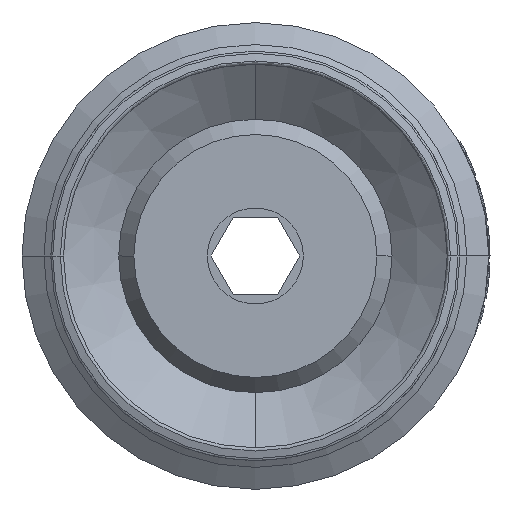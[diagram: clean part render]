
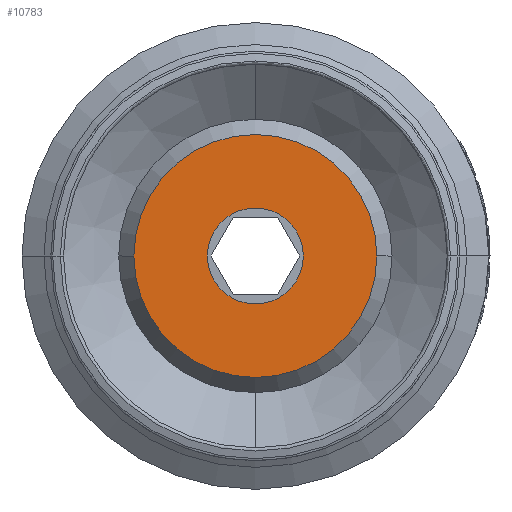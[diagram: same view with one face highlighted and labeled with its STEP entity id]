
A CAD part, front view. The second image highlights one B-rep face of the part: STEP entity #10783.
In plain terms, the highlighted planar face has unit normal (0, -1, 0).
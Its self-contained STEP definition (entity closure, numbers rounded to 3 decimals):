
#1263 = EDGE_LOOP ( 'NONE', ( #10392, #11448 ) ) ;
#1641 = EDGE_CURVE ( 'NONE', #10900, #10714, #3721, .T. ) ;
#1756 = CIRCLE ( 'NONE', #8604, 9.5 ) ;
#1795 = AXIS2_PLACEMENT_3D ( 'NONE', #10257, #3513, #11358 ) ;
#2706 = EDGE_CURVE ( 'NONE', #8658, #9802, #1756, .T. ) ;
#3513 = DIRECTION ( 'NONE',  ( 0., -1., 0. ) ) ;
#3611 = CARTESIAN_POINT ( 'NONE',  ( 0., -13., 0. ) ) ;
#3721 = CIRCLE ( 'NONE', #11322, 3.75 ) ;
#3845 = FACE_OUTER_BOUND ( 'NONE', #5140, .T. ) ;
#4723 = DIRECTION ( 'NONE',  ( -1., 0., 0. ) ) ;
#5140 = EDGE_LOOP ( 'NONE', ( #6207, #6282 ) ) ;
#5159 = CIRCLE ( 'NONE', #5390, 9.5 ) ;
#5166 = CARTESIAN_POINT ( 'NONE',  ( 0., -13., 0. ) ) ;
#5314 = EDGE_CURVE ( 'NONE', #9802, #8658, #5159, .T. ) ;
#5390 = AXIS2_PLACEMENT_3D ( 'NONE', #5166, #13048, #6313 ) ;
#5528 = CARTESIAN_POINT ( 'NONE',  ( 0., -13., 0. ) ) ;
#5672 = EDGE_CURVE ( 'NONE', #10714, #10900, #11663, .T. ) ;
#6207 = ORIENTED_EDGE ( 'NONE', *, *, #2706, .T. ) ;
#6282 = ORIENTED_EDGE ( 'NONE', *, *, #5314, .T. ) ;
#6313 = DIRECTION ( 'NONE',  ( -1., 0., 0. ) ) ;
#6461 = DIRECTION ( 'NONE',  ( 0., 1., 0. ) ) ;
#6656 = DIRECTION ( 'NONE',  ( -1., 0., 0. ) ) ;
#7819 = CARTESIAN_POINT ( 'NONE',  ( -3.75, -13., 0. ) ) ;
#7820 = CARTESIAN_POINT ( 'NONE',  ( -9.5, -13., 0. ) ) ;
#8604 = AXIS2_PLACEMENT_3D ( 'NONE', #3611, #11461, #4723 ) ;
#8658 = VERTEX_POINT ( 'NONE', #7820 ) ;
#9277 = CARTESIAN_POINT ( 'NONE',  ( 9.5, -13., 0. ) ) ;
#9802 = VERTEX_POINT ( 'NONE', #9277 ) ;
#10209 = PLANE ( 'NONE',  #1795 ) ;
#10257 = CARTESIAN_POINT ( 'NONE',  ( -3.75, -13., 0. ) ) ;
#10392 = ORIENTED_EDGE ( 'NONE', *, *, #5672, .T. ) ;
#10714 = VERTEX_POINT ( 'NONE', #7819 ) ;
#10783 = ADVANCED_FACE ( 'NONE', ( #3845, #12449 ), #10209, .T. ) ;
#10900 = VERTEX_POINT ( 'NONE', #13667 ) ;
#11322 = AXIS2_PLACEMENT_3D ( 'NONE', #13195, #6461, #14323 ) ;
#11358 = DIRECTION ( 'NONE',  ( 1., 0., 0. ) ) ;
#11448 = ORIENTED_EDGE ( 'NONE', *, *, #1641, .T. ) ;
#11461 = DIRECTION ( 'NONE',  ( 0., -1., 0. ) ) ;
#11663 = CIRCLE ( 'NONE', #14437, 3.75 ) ;
#12449 = FACE_BOUND ( 'NONE', #1263, .T. ) ;
#13048 = DIRECTION ( 'NONE',  ( 0., -1., 0. ) ) ;
#13195 = CARTESIAN_POINT ( 'NONE',  ( 0., -13., 0. ) ) ;
#13385 = DIRECTION ( 'NONE',  ( 0., 1., 0. ) ) ;
#13667 = CARTESIAN_POINT ( 'NONE',  ( 3.75, -13., 0. ) ) ;
#14323 = DIRECTION ( 'NONE',  ( -1., 0., 0. ) ) ;
#14437 = AXIS2_PLACEMENT_3D ( 'NONE', #5528, #13385, #6656 ) ;
